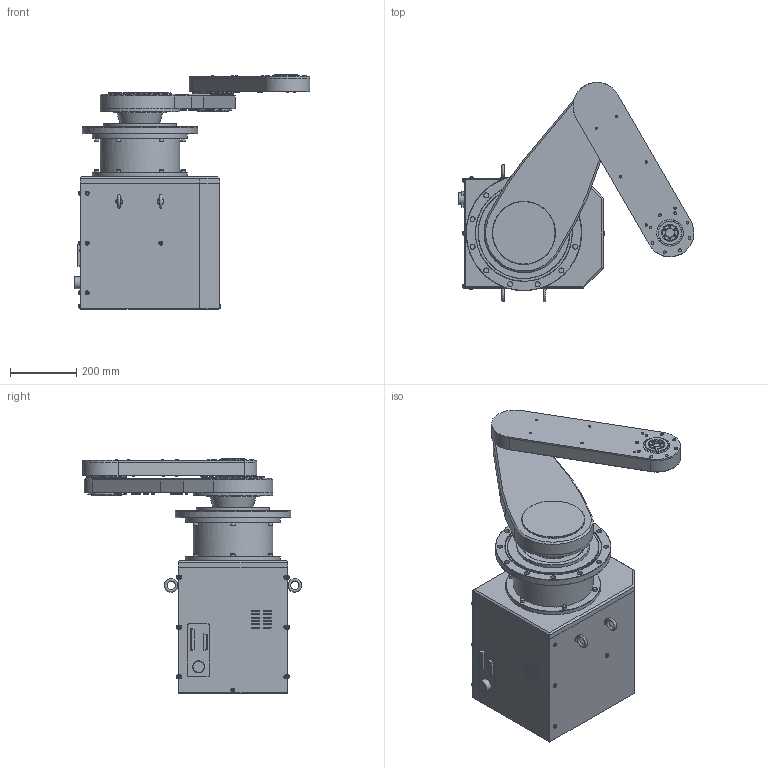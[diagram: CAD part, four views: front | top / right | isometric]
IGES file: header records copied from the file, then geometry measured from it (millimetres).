
Global section: file name: LVHR3440S-040-SM-03423; native system: Autodesk Inventor 2016; preprocessor: unknown; author: m-takamori; date: 20161110.184005; units: millimetre
Bounding box: 709.95 x 659.55 x 707.5 mm (x, y, z)
Volume: 71931387.9 mm3; surface area: 2004137.4 mm2
Topology: 37 solids, 41 shells, 656 faces, 1293 edges, 827 vertices
Faces by surface type: bspline 656
